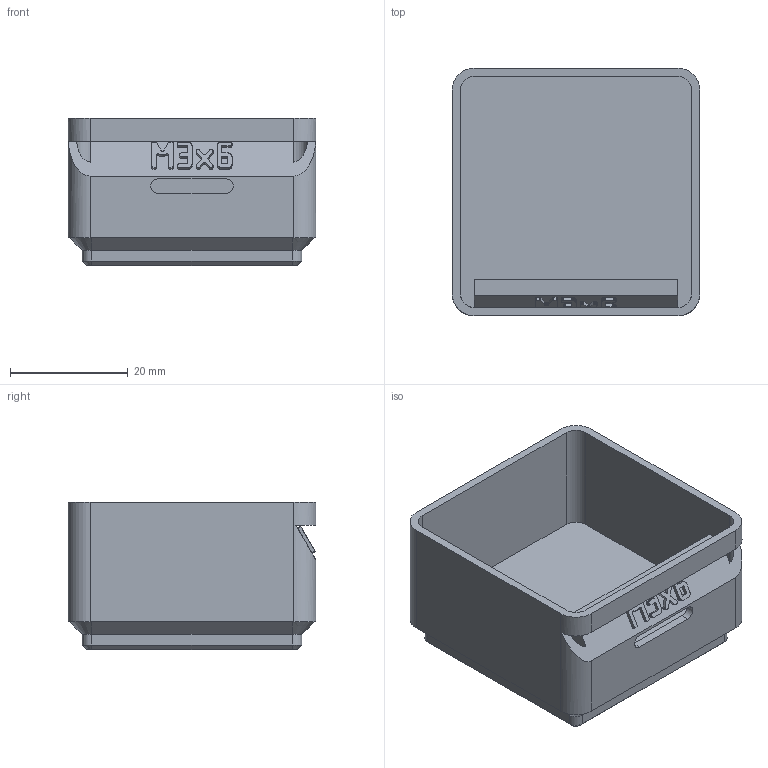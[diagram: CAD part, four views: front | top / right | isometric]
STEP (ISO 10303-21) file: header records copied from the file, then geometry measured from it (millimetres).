
FILE_DESCRIPTION(('Open CASCADE Model'),'2;1');
FILE_NAME('Open CASCADE Shape Model','2026-11-03T17:13:42',('Author'),( 'Open CASCADE'),'Open CASCADE STEP processor 8.0','build123d', 'Unknown');
FILE_SCHEMA(('AUTOMOTIVE_DESIGN { 1 0 10303 214 1 1 1 1 }'));
Length unit declared in the file: millimetre
Products named in the file (1): COMPOUND
Bounding box: 42 x 42 x 25 mm (x, y, z)
Volume: 13723 mm3; surface area: 10531.6 mm2
Topology: 1 solids, 1 shells, 476 faces, 1389 edges, 920 vertices
Faces by surface type: plane 454, cylinder 14, cone 8
Entity records: 32622 total; most frequent: CARTESIAN_POINT 6578, DIRECTION 4219, LINE 3149, VECTOR 3149, ORIENTED_EDGE 2778, PCURVE 2778, DEFINITIONAL_REPRESENTATION 2778, EDGE_CURVE 1389
